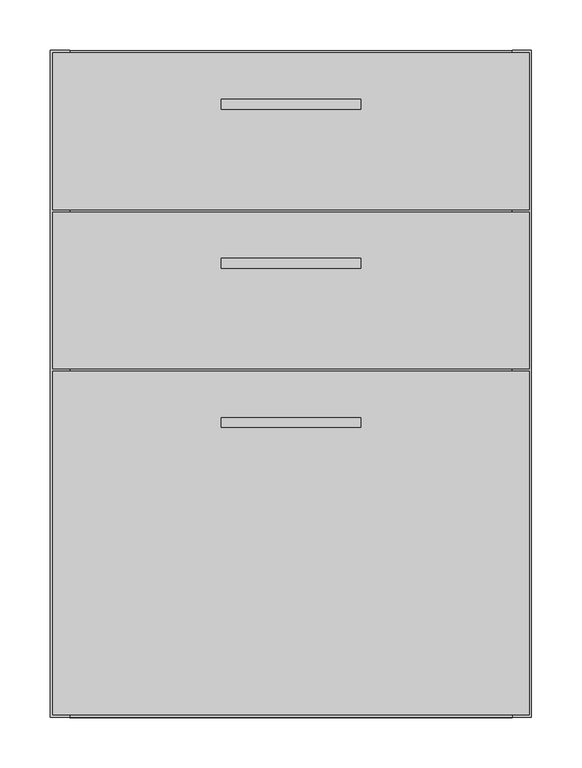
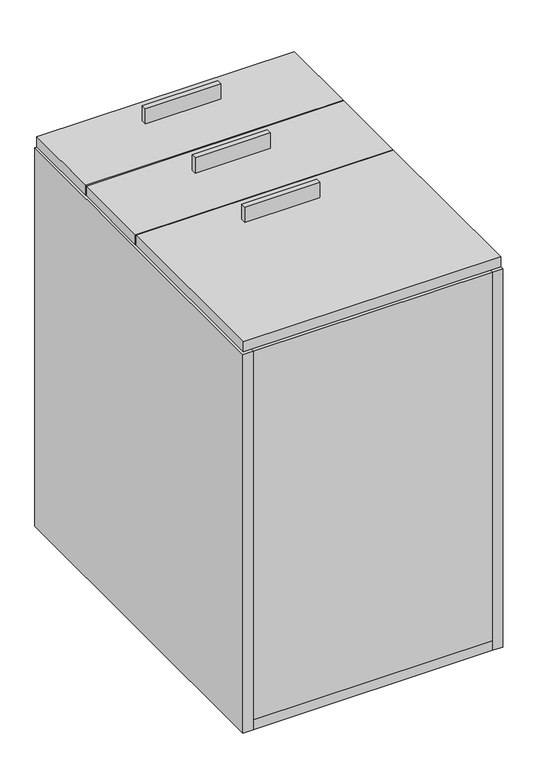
"""IFC4 building model written with IfcOpenShell, lengths in millimetres: proxy geometry, FOUNDATION^PEDESTAL_LEGAL BBF 26x29.75D-SOLID ASSEMBLY."""

from ifc_helpers import new_model, si_unit, frame, origin, origin_with_axes, place, context, project, spatial, polyline, outline, extrude, source, transform, mapped, element, save


def generic_models_772d3905(model_context):
    return source(origin(), model_context, "Body", "SweptSolid", [
        extrude(outline(polyline([(307.18125, 444.896875), (169.06875, 444.896875), (169.06875, 454.421875), (307.18125, 454.421875), (307.18125, 444.896875)])), frame((0.0, 0.0, 755.65), z_axis=(0.0, 0.0, 1.0), x_axis=(1.0, 0.0, 0.0)), (0.0, 0.0, 1.0), 30.1625),
        extrude(outline(polyline([(19.05, 660.4), (19.05, 0.0), (0.0, 0.0), (0.0, 660.4), (19.05, 660.4)])), origin_with_axes(), (0.0, 0.0, 1.0), 733.425),
        extrude(outline(polyline([(473.86875, 502.840625), (2.38125, 502.840625), (2.38125, 658.01875), (473.86875, 658.01875), (473.86875, 502.840625)])), frame((0.0, 0.0, 736.6), z_axis=(0.0, 0.0, 1.0), x_axis=(1.0, 0.0, 0.0)), (0.0, 0.0, 1.0), 19.05),
        extrude(outline(polyline([(2.38125, 500.459375), (473.86875, 500.459375), (473.86875, 345.28125), (2.38125, 345.28125), (2.38125, 500.459375)])), frame((0.0, 0.0, 736.6), z_axis=(0.0, 0.0, 1.0), x_axis=(1.0, 0.0, 0.0)), (0.0, 0.0, 1.0), 19.05),
        extrude(outline(polyline([(457.2, 25.4), (457.2, 0.0), (19.05, 0.0), (19.05, 25.4), (457.2, 25.4)])), frame((0.0, 0.0, 19.05), z_axis=(0.0, 0.0, 1.0), x_axis=(1.0, 0.0, 0.0)), (0.0, 0.0, 1.0), 714.375),
        extrude(outline(polyline([(2.38125, 2.38125), (2.38125, 342.9), (473.86875, 342.9), (473.86875, 2.38125), (2.38125, 2.38125)])), frame((0.0, 0.0, 736.6), z_axis=(0.0, 0.0, 1.0), x_axis=(1.0, 0.0, 0.0)), (0.0, 0.0, 1.0), 19.05),
        extrude(outline(polyline([(457.2, 660.4), (457.2, 0.0), (19.05, 0.0), (19.05, 660.4), (457.2, 660.4)])), origin_with_axes(), (0.0, 0.0, 1.0), 19.05),
        extrude(outline(polyline([(457.2, 0.0), (457.2, 660.4), (476.25, 660.4), (476.25, 0.0), (457.2, 0.0)])), origin_with_axes(), (0.0, 0.0, 1.0), 733.425),
        extrude(outline(polyline([(307.18125, 602.45625), (169.06875, 602.45625), (169.06875, 611.98125), (307.18125, 611.98125), (307.18125, 602.45625)])), frame((0.0, 0.0, 755.65), z_axis=(0.0, 0.0, 1.0), x_axis=(1.0, 0.0, 0.0)), (0.0, 0.0, 1.0), 30.1625),
        extrude(outline(polyline([(307.18125, 287.3375), (169.06875, 287.3375), (169.06875, 296.8625), (307.18125, 296.8625), (307.18125, 287.3375)])), frame((0.0, 0.0, 755.65), z_axis=(0.0, 0.0, 1.0), x_axis=(1.0, 0.0, 0.0)), (0.0, 0.0, 1.0), 30.1625),
    ])


if __name__ == "__main__":
    model = new_model("IFC4")
    model_context = context("Model", 3, world=origin())
    ifc_project = project(units=[si_unit("LENGTHUNIT", "METRE", prefix="MILLI")], contexts=[model_context])
    site = spatial("IfcSite", under=ifc_project)
    building = spatial("IfcBuilding", under=site)
    placement = place(None, origin())
    generic_models_shape = generic_models_772d3905(model_context)
    element("IfcBuildingElementProxy", 1, Name="FOUNDATION^PEDESTAL_LEGAL BBF 26x29.75D-SOLID ASSEMBLY", ObjectType="FOUNDATION^PEDESTAL_LEGAL BBF 26x29.75D-SOLID ASSEMBLY", at=placement, inside=building, context=model_context, shape_type="MappedRepresentation", body=[
        mapped(generic_models_shape, transform((0.0, 0.0, 0.0), x_axis=(1.0, 0.0, 0.0), y_axis=(0.0, 1.0, 0.0), z_axis=(0.0, 0.0, 1.0))),
    ])
    save(model, "model.ifc")
